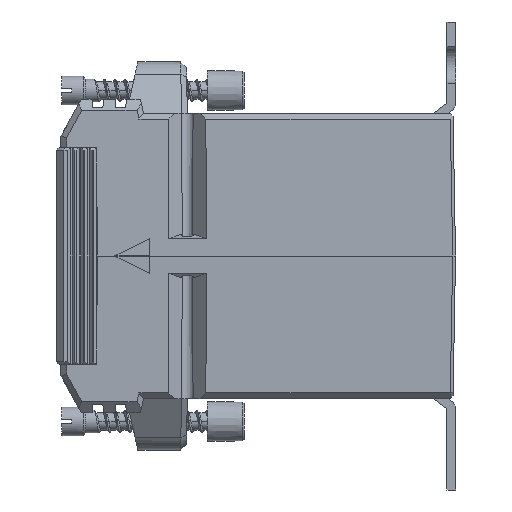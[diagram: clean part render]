
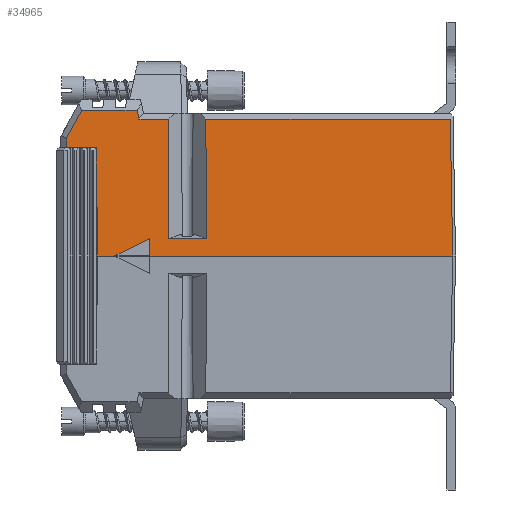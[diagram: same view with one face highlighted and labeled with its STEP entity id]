
A CAD part, left-side view. The second image highlights one B-rep face of the part: STEP entity #34965.
In plain terms, the highlighted planar face has unit normal (-1, 0, 0.018).
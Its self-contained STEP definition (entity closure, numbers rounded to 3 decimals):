
#427=PLANE('',#36942);
#2833=FACE_OUTER_BOUND('',#4744,.T.);
#4744=EDGE_LOOP('',(#23508,#23509,#23510,#23511,#23512,#23513,#23514,#23515,
#23516,#23517,#23518,#23519,#23520,#23521,#23522,#23523,#23524,#23525));
#7364=LINE('',#50578,#11121);
#7365=LINE('',#50580,#11122);
#7366=LINE('',#50582,#11123);
#7367=LINE('',#50584,#11124);
#7368=LINE('',#50586,#11125);
#7369=LINE('',#50588,#11126);
#7370=LINE('',#50590,#11127);
#7371=LINE('',#50592,#11128);
#7372=LINE('',#50594,#11129);
#7373=LINE('',#50596,#11130);
#7374=LINE('',#50598,#11131);
#7375=LINE('',#50600,#11132);
#7376=LINE('',#50602,#11133);
#7377=LINE('',#50604,#11134);
#7378=LINE('',#50606,#11135);
#7379=LINE('',#50608,#11136);
#7380=LINE('',#50610,#11137);
#7381=LINE('',#50611,#11138);
#11121=VECTOR('',#39388,1000.);
#11122=VECTOR('',#39389,1000.);
#11123=VECTOR('',#39390,1000.);
#11124=VECTOR('',#39391,1000.);
#11125=VECTOR('',#39392,1000.);
#11126=VECTOR('',#39393,1000.);
#11127=VECTOR('',#39394,1000.);
#11128=VECTOR('',#39395,1000.);
#11129=VECTOR('',#39396,1000.);
#11130=VECTOR('',#39397,1000.);
#11131=VECTOR('',#39398,10.);
#11132=VECTOR('',#39399,10.);
#11133=VECTOR('',#39400,10.);
#11134=VECTOR('',#39401,1000.);
#11135=VECTOR('',#39402,1000.);
#11136=VECTOR('',#39403,1000.);
#11137=VECTOR('',#39404,1000.);
#11138=VECTOR('',#39405,1000.);
#14923=VERTEX_POINT('',#50576);
#14924=VERTEX_POINT('',#50577);
#14925=VERTEX_POINT('',#50579);
#14926=VERTEX_POINT('',#50581);
#14927=VERTEX_POINT('',#50583);
#14928=VERTEX_POINT('',#50585);
#14929=VERTEX_POINT('',#50587);
#14930=VERTEX_POINT('',#50589);
#14931=VERTEX_POINT('',#50591);
#14932=VERTEX_POINT('',#50593);
#14933=VERTEX_POINT('',#50595);
#14934=VERTEX_POINT('',#50597);
#14935=VERTEX_POINT('',#50599);
#14936=VERTEX_POINT('',#50601);
#14937=VERTEX_POINT('',#50603);
#14938=VERTEX_POINT('',#50605);
#14939=VERTEX_POINT('',#50607);
#14940=VERTEX_POINT('',#50609);
#18247=EDGE_CURVE('',#14923,#14924,#7364,.T.);
#18248=EDGE_CURVE('',#14924,#14925,#7365,.T.);
#18249=EDGE_CURVE('',#14925,#14926,#7366,.T.);
#18250=EDGE_CURVE('',#14926,#14927,#7367,.T.);
#18251=EDGE_CURVE('',#14927,#14928,#7368,.T.);
#18252=EDGE_CURVE('',#14928,#14929,#7369,.T.);
#18253=EDGE_CURVE('',#14929,#14930,#7370,.T.);
#18254=EDGE_CURVE('',#14931,#14930,#7371,.T.);
#18255=EDGE_CURVE('',#14931,#14932,#7372,.T.);
#18256=EDGE_CURVE('',#14932,#14933,#7373,.T.);
#18257=EDGE_CURVE('',#14934,#14933,#7374,.T.);
#18258=EDGE_CURVE('',#14935,#14934,#7375,.T.);
#18259=EDGE_CURVE('',#14936,#14935,#7376,.T.);
#18260=EDGE_CURVE('',#14936,#14937,#7377,.T.);
#18261=EDGE_CURVE('',#14938,#14937,#7378,.T.);
#18262=EDGE_CURVE('',#14938,#14939,#7379,.T.);
#18263=EDGE_CURVE('',#14939,#14940,#7380,.T.);
#18264=EDGE_CURVE('',#14923,#14940,#7381,.T.);
#23508=ORIENTED_EDGE('',*,*,#18247,.T.);
#23509=ORIENTED_EDGE('',*,*,#18248,.T.);
#23510=ORIENTED_EDGE('',*,*,#18249,.T.);
#23511=ORIENTED_EDGE('',*,*,#18250,.T.);
#23512=ORIENTED_EDGE('',*,*,#18251,.T.);
#23513=ORIENTED_EDGE('',*,*,#18252,.T.);
#23514=ORIENTED_EDGE('',*,*,#18253,.T.);
#23515=ORIENTED_EDGE('',*,*,#18254,.F.);
#23516=ORIENTED_EDGE('',*,*,#18255,.T.);
#23517=ORIENTED_EDGE('',*,*,#18256,.T.);
#23518=ORIENTED_EDGE('',*,*,#18257,.F.);
#23519=ORIENTED_EDGE('',*,*,#18258,.F.);
#23520=ORIENTED_EDGE('',*,*,#18259,.F.);
#23521=ORIENTED_EDGE('',*,*,#18260,.T.);
#23522=ORIENTED_EDGE('',*,*,#18261,.F.);
#23523=ORIENTED_EDGE('',*,*,#18262,.T.);
#23524=ORIENTED_EDGE('',*,*,#18263,.T.);
#23525=ORIENTED_EDGE('',*,*,#18264,.F.);
#34965=ADVANCED_FACE('',(#2833),#427,.T.);
#36942=AXIS2_PLACEMENT_3D('',#50575,#39386,#39387);
#39386=DIRECTION('center_axis',(-1.,0.,
0.017));
#39387=DIRECTION('ref_axis',(0.017,0.,1.));
#39388=DIRECTION('',(0.017,0.017,1.));
#39389=DIRECTION('',(0.,1.,0.));
#39390=DIRECTION('',(-0.017,-0.005,-1.));
#39391=DIRECTION('',(0.,1.,0.));
#39392=DIRECTION('',(0.017,-0.005,1.));
#39393=DIRECTION('',(0.,1.,0.));
#39394=DIRECTION('',(0.017,0.216,0.976));
#39395=DIRECTION('',(0.,-1.,0.));
#39396=DIRECTION('',(-0.015,0.485,-0.875));
#39397=DIRECTION('',(-0.017,0.017,-1.));
#39398=DIRECTION('',(0.,1.,0.));
#39399=DIRECTION('',(0.017,0.,1.));
#39400=DIRECTION('',(0.017,-0.017,1.));
#39401=DIRECTION('',(-0.017,-0.017,-1.));
#39402=DIRECTION('',(0.,1.,0.));
#39403=DIRECTION('',(0.008,-0.894,0.447));
#39404=DIRECTION('',(-0.017,0.,-1.));
#39405=DIRECTION('',(0.,1.,0.));
#50575=CARTESIAN_POINT('Origin',(-24.75,40.5,0.));
#50576=CARTESIAN_POINT('',(-24.75,-28.5,0.));
#50577=CARTESIAN_POINT('',(-24.331,-28.081,24.));
#50578=CARTESIAN_POINT('',(-24.729,-28.479,1.204));
#50579=CARTESIAN_POINT('',(-24.331,14.746,24.));
#50580=CARTESIAN_POINT('',(-24.331,25.664,24.));
#50581=CARTESIAN_POINT('',(-24.698,14.638,3.));
#50582=CARTESIAN_POINT('',(-24.748,14.623,0.132));
#50583=CARTESIAN_POINT('',(-24.698,21.362,3.));
#50584=CARTESIAN_POINT('',(-24.698,40.5,3.));
#50585=CARTESIAN_POINT('',(-24.331,21.254,24.));
#50586=CARTESIAN_POINT('',(-24.752,21.378,-0.098));
#50587=CARTESIAN_POINT('',(-24.331,26.466,24.));
#50588=CARTESIAN_POINT('',(-24.331,25.664,24.));
#50589=CARTESIAN_POINT('',(-24.305,26.799,25.5));
#50590=CARTESIAN_POINT('',(-24.679,22.052,4.089));
#50591=CARTESIAN_POINT('',(-24.305,36.486,25.5));
#50592=CARTESIAN_POINT('',(-24.305,60.,25.5));
#50593=CARTESIAN_POINT('',(-24.388,39.138,20.716));
#50594=CARTESIAN_POINT('',(-24.675,48.243,4.29));
#50595=CARTESIAN_POINT('',(-24.418,39.168,19.));
#50596=CARTESIAN_POINT('',(-24.75,39.5,-0.017));
#50597=CARTESIAN_POINT('',(-24.418,33.918,19.));
#50598=CARTESIAN_POINT('',(-24.418,38.709,19.));
#50599=CARTESIAN_POINT('',(-24.45,33.918,17.187));
#50600=CARTESIAN_POINT('',(-24.584,33.918,9.495));
#50601=CARTESIAN_POINT('',(-24.475,33.943,15.755));
#50602=CARTESIAN_POINT('',(-24.585,34.053,9.445));
#50603=CARTESIAN_POINT('',(-24.75,33.668,0.));
#50604=CARTESIAN_POINT('',(-24.748,33.67,0.119));
#50605=CARTESIAN_POINT('',(-24.75,30.668,0.));
#50606=CARTESIAN_POINT('',(-24.75,40.5,0.));
#50607=CARTESIAN_POINT('',(-24.698,24.668,3.));
#50608=CARTESIAN_POINT('',(-24.75,30.668,0.));
#50609=CARTESIAN_POINT('',(-24.75,24.668,0.));
#50610=CARTESIAN_POINT('',(-24.698,24.668,3.));
#50611=CARTESIAN_POINT('',(-24.75,40.5,0.));
